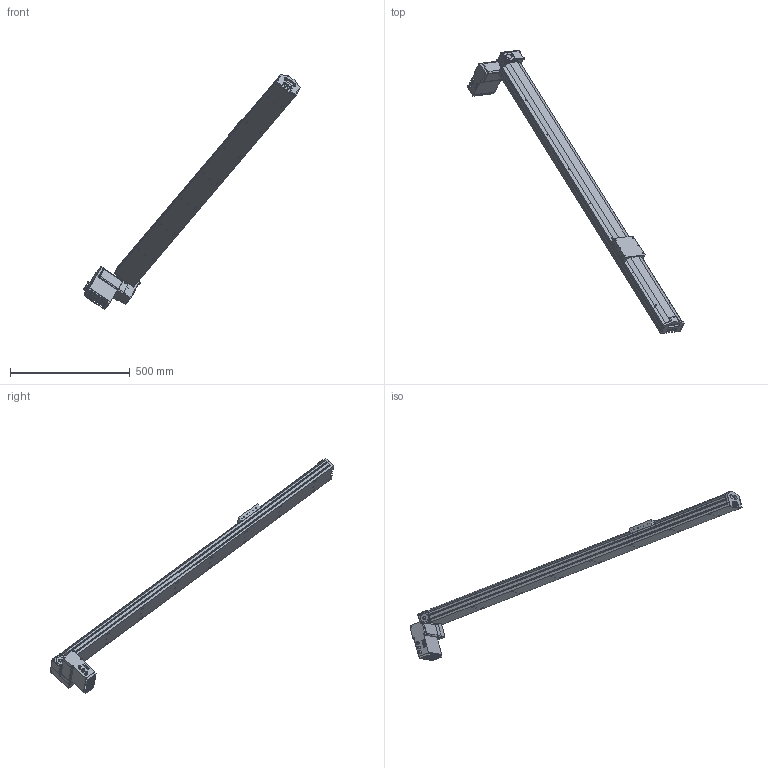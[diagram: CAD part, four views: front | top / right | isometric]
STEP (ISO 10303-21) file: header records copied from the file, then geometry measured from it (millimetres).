
FILE_DESCRIPTION (( 'STEP AP203' ), '1' );
FILE_NAME ('S10 CBH LU S1500.STEP', '2012-10-01T06:59:29', ( '' ), ( '' ), 'SwSTEP 2.0', 'SolidWorks 2010', '' );
FILE_SCHEMA (( 'CONFIG_CONTROL_DESIGN' ));
Length unit declared in the file: millimetre
Products named in the file (14): Cvis M5 L30_Default; Vis M5 L16-2_Default_1; cache t皻e axe_Default; vis M5 L12_Default; axe 1500; S10 CBH LU S1500; plaque de bout s10_Default; cache t皻e_Default; Plaque racord_Default; renvoi LH_Default; vis M5 L5_Default; embout; palette tbh; MOTEUR GMI 61 
Assembly tree (24 placements, depth 2):
  S10 CBH LU S1500
    vis M5 L5_Default  x4
    Vis M5 L16-2_Default_1  x4
    embout
    MOTEUR GMI 61 
    cache t皻e_Default  x2
    Cvis M5 L30_Default  x2
    vis M5 L12_Default  x4
    axe 1500
    cache t皻e axe_Default
    renvoi LH_Default
    Plaque racord_Default
    plaque de bout s10_Default
    palette tbh
Bounding box: 903.67 x 1184.38 x 982.56 mm (x, y, z)
Volume: 8969073.9 mm3; surface area: 934360.9 mm2
Topology: 24 solids, 24 shells, 1085 faces, 2638 edges, 1634 vertices
Faces by surface type: plane 542, cylinder 394, cone 102, bspline 40, torus 7
Entity records: 27307 total; most frequent: CARTESIAN_POINT 5080, DIRECTION 4401, ORIENTED_EDGE 4092, EDGE_CURVE 2046, AXIS2_PLACEMENT_3D 1565, VERTEX_POINT 1322, VECTOR 1271, LINE 1271
